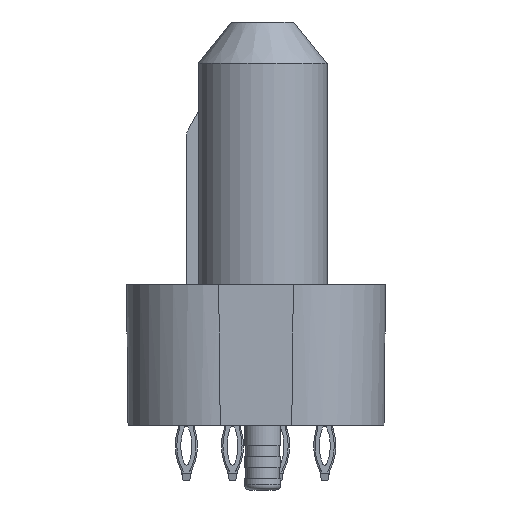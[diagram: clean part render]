
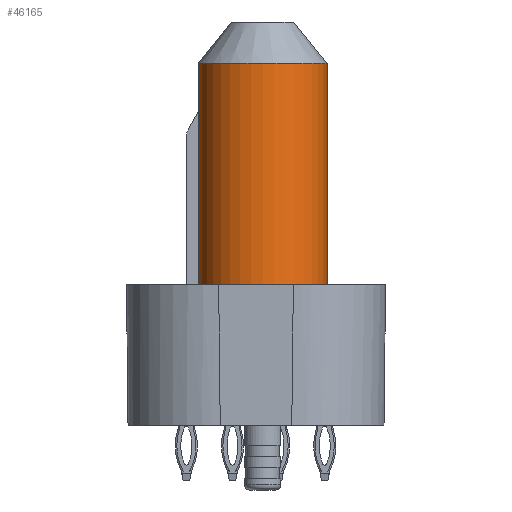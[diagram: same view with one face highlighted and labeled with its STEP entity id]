
A CAD part, left-side view. The second image highlights one B-rep face of the part: STEP entity #46165.
In plain terms, the highlighted cylindrical face has radius 3.5 mm (diameter 7 mm), a partial arc.
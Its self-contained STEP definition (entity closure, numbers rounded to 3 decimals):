
#40129=CYLINDRICAL_SURFACE('',#140408,3.5);
#46165=ADVANCED_FACE('',(#53092),#40129,.T.);
#53092=FACE_OUTER_BOUND('',#58826,.T.);
#58826=EDGE_LOOP('',(#98849,#98850,#98851,#98852));
#64983=LINE('',#202224,#71172);
#64984=LINE('',#202229,#71173);
#71172=VECTOR('',#171823,1.);
#71173=VECTOR('',#171826,1.);
#98849=ORIENTED_EDGE('',*,*,#121286,.F.);
#98850=ORIENTED_EDGE('',*,*,#121287,.T.);
#98851=ORIENTED_EDGE('',*,*,#121288,.F.);
#98852=ORIENTED_EDGE('',*,*,#121289,.T.);
#107422=VERTEX_POINT('',#202225);
#107423=VERTEX_POINT('',#202226);
#107424=VERTEX_POINT('',#202228);
#107425=VERTEX_POINT('',#202230);
#121286=EDGE_CURVE('',#107422,#107423,#64983,.T.);
#121287=EDGE_CURVE('',#107422,#107424,#127775,.T.);
#121288=EDGE_CURVE('',#107425,#107424,#64984,.T.);
#121289=EDGE_CURVE('',#107425,#107423,#127776,.T.);
#127775=CIRCLE('',#140406,3.5);
#127776=CIRCLE('',#140407,3.5);
#140406=AXIS2_PLACEMENT_3D('',#202227,#171824,#171825);
#140407=AXIS2_PLACEMENT_3D('',#202231,#171827,#171828);
#140408=AXIS2_PLACEMENT_3D('',#202232,#171829,#171830);
#171823=DIRECTION('',(0.,0.,-1.));
#171824=DIRECTION('',(0.,0.,-1.));
#171825=DIRECTION('',(0.,-1.,0.));
#171826=DIRECTION('',(0.,0.,1.));
#171827=DIRECTION('',(0.,0.,1.));
#171828=DIRECTION('',(0.,-1.,0.));
#171829=DIRECTION('',(0.,0.,1.));
#171830=DIRECTION('',(1.,0.,0.));
#202224=CARTESIAN_POINT('',(-36.63,-3.855,19.38));
#202225=CARTESIAN_POINT('',(-36.63,-3.855,19.63));
#202226=CARTESIAN_POINT('',(-36.63,-3.855,7.63));
#202227=CARTESIAN_POINT('',(-36.63,-0.355,19.63));
#202228=CARTESIAN_POINT('',(-36.63,3.145,19.63));
#202229=CARTESIAN_POINT('',(-36.63,3.145,7.63));
#202230=CARTESIAN_POINT('',(-36.63,3.145,7.63));
#202231=CARTESIAN_POINT('',(-36.63,-0.355,7.63));
#202232=CARTESIAN_POINT('',(-36.63,-0.355,7.63));
